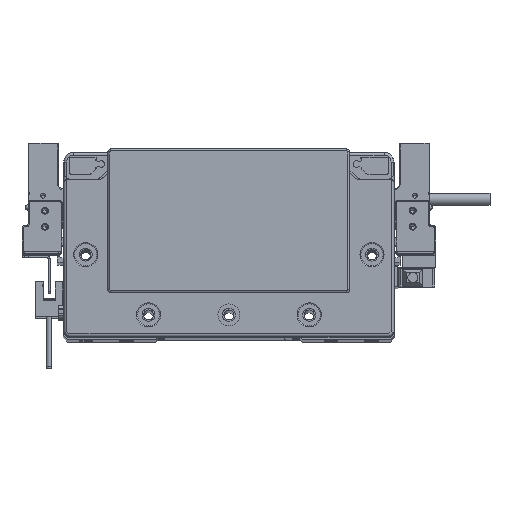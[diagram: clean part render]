
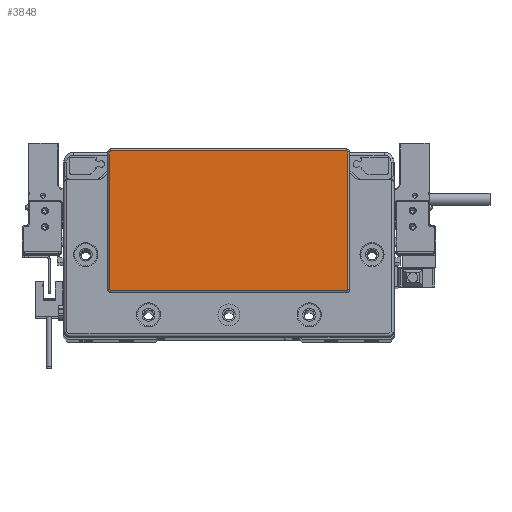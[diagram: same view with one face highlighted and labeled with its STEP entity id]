
A CAD part, top view. The second image highlights one B-rep face of the part: STEP entity #3848.
In plain terms, the highlighted planar face has unit normal (0, 0, 1) as drawn and (0, 0, -1) by its records, which use the part's own axes.
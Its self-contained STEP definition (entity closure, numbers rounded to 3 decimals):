
#1816 = CARTESIAN_POINT ( 'NONE',  ( 58.75, -23.3, -2. ) ) ;
#2236 = EDGE_CURVE ( 'NONE', #39578, #34671, #4663, .T. ) ;
#3848 = ADVANCED_FACE ( 'NONE', ( #59935 ), #86979, .T. ) ;
#4433 = DIRECTION ( 'NONE',  ( -1., 0., 0. ) ) ;
#4663 = LINE ( 'NONE', #85360, #61418 ) ;
#5353 = CARTESIAN_POINT ( 'NONE',  ( -59.25, 45.3, -2. ) ) ;
#6078 = CIRCLE ( 'NONE', #75427, 0.5 ) ;
#7830 = ORIENTED_EDGE ( 'NONE', *, *, #15502, .T. ) ;
#8658 = DIRECTION ( 'NONE',  ( 0., 0., -1. ) ) ;
#9306 = LINE ( 'NONE', #63806, #75719 ) ;
#13086 = ORIENTED_EDGE ( 'NONE', *, *, #13394, .T. ) ;
#13394 = EDGE_CURVE ( 'NONE', #30911, #39578, #27204, .T. ) ;
#14197 = EDGE_LOOP ( 'NONE', ( #40305, #46024, #33750, #58661, #53519, #52095, #7830, #13086 ) ) ;
#15364 = CARTESIAN_POINT ( 'NONE',  ( 59.25, -23.3, -2. ) ) ;
#15502 = EDGE_CURVE ( 'NONE', #50663, #30911, #9306, .T. ) ;
#17789 = CIRCLE ( 'NONE', #60265, 0.5 ) ;
#18837 = DIRECTION ( 'NONE',  ( 0., -1., 0. ) ) ;
#21725 = DIRECTION ( 'NONE',  ( 1., 0., 0. ) ) ;
#21741 = EDGE_CURVE ( 'NONE', #40078, #68135, #77999, .T. ) ;
#21815 = DIRECTION ( 'NONE',  ( 0., 0., -1. ) ) ;
#22076 = AXIS2_PLACEMENT_3D ( 'NONE', #65279, #32026, #26257 ) ;
#23533 = DIRECTION ( 'NONE',  ( 0., 0., -1. ) ) ;
#24829 = CARTESIAN_POINT ( 'NONE',  ( -58.75, -23.8, -2. ) ) ;
#26219 = CARTESIAN_POINT ( 'NONE',  ( -59.25, 45.3, -2. ) ) ;
#26257 = DIRECTION ( 'NONE',  ( -1., 0., 0. ) ) ;
#27204 = CIRCLE ( 'NONE', #78192, 0.5 ) ;
#27826 = CARTESIAN_POINT ( 'NONE',  ( 58.75, 45.8, -2. ) ) ;
#30911 = VERTEX_POINT ( 'NONE', #27826 ) ;
#31523 = DIRECTION ( 'NONE',  ( 0., 1., 0. ) ) ;
#32026 = DIRECTION ( 'NONE',  ( 0., 0., -1. ) ) ;
#33750 = ORIENTED_EDGE ( 'NONE', *, *, #21741, .T. ) ;
#34671 = VERTEX_POINT ( 'NONE', #15364 ) ;
#38114 = DIRECTION ( 'NONE',  ( -1., 0., 0. ) ) ;
#39578 = VERTEX_POINT ( 'NONE', #77918 ) ;
#40078 = VERTEX_POINT ( 'NONE', #65402 ) ;
#40305 = ORIENTED_EDGE ( 'NONE', *, *, #2236, .T. ) ;
#40850 = VERTEX_POINT ( 'NONE', #56777 ) ;
#42283 = AXIS2_PLACEMENT_3D ( 'NONE', #43231, #8658, #79106 ) ;
#42888 = CARTESIAN_POINT ( 'NONE',  ( 58.75, 45.3, -2. ) ) ;
#43231 = CARTESIAN_POINT ( 'NONE',  ( -58.75, 45.3, -2. ) ) ;
#43562 = EDGE_CURVE ( 'NONE', #34671, #40078, #17789, .T. ) ;
#46024 = ORIENTED_EDGE ( 'NONE', *, *, #43562, .T. ) ;
#46495 = EDGE_CURVE ( 'NONE', #83176, #50663, #86206, .T. ) ;
#49967 = DIRECTION ( 'NONE',  ( 0., 0., -1. ) ) ;
#50549 = VECTOR ( 'NONE', #38114, 1000. ) ;
#50659 = CARTESIAN_POINT ( 'NONE',  ( -58.75, 45.8, -2. ) ) ;
#50663 = VERTEX_POINT ( 'NONE', #50659 ) ;
#52095 = ORIENTED_EDGE ( 'NONE', *, *, #46495, .T. ) ;
#53519 = ORIENTED_EDGE ( 'NONE', *, *, #66665, .T. ) ;
#56777 = CARTESIAN_POINT ( 'NONE',  ( -59.25, -23.3, -2. ) ) ;
#58661 = ORIENTED_EDGE ( 'NONE', *, *, #66257, .T. ) ;
#59935 = FACE_OUTER_BOUND ( 'NONE', #14197, .T. ) ;
#60265 = AXIS2_PLACEMENT_3D ( 'NONE', #1816, #23533, #4433 ) ;
#61418 = VECTOR ( 'NONE', #18837, 1000. ) ;
#63039 = CARTESIAN_POINT ( 'NONE',  ( -58.75, -23.8, -2. ) ) ;
#63806 = CARTESIAN_POINT ( 'NONE',  ( 58.75, 45.8, -2. ) ) ;
#65279 = CARTESIAN_POINT ( 'NONE',  ( 0., 0., -2. ) ) ;
#65328 = CARTESIAN_POINT ( 'NONE',  ( -58.75, -23.3, -2. ) ) ;
#65402 = CARTESIAN_POINT ( 'NONE',  ( 58.75, -23.8, -2. ) ) ;
#66257 = EDGE_CURVE ( 'NONE', #68135, #40850, #6078, .T. ) ;
#66665 = EDGE_CURVE ( 'NONE', #40850, #83176, #85617, .T. ) ;
#68135 = VERTEX_POINT ( 'NONE', #63039 ) ;
#69952 = DIRECTION ( 'NONE',  ( -1., 0., 0. ) ) ;
#75427 = AXIS2_PLACEMENT_3D ( 'NONE', #65328, #21815, #80801 ) ;
#75486 = VECTOR ( 'NONE', #31523, 1000. ) ;
#75719 = VECTOR ( 'NONE', #21725, 1000. ) ;
#77918 = CARTESIAN_POINT ( 'NONE',  ( 59.25, 45.3, -2. ) ) ;
#77999 = LINE ( 'NONE', #24829, #50549 ) ;
#78192 = AXIS2_PLACEMENT_3D ( 'NONE', #42888, #49967, #69952 ) ;
#79106 = DIRECTION ( 'NONE',  ( -1., 0., 0. ) ) ;
#80801 = DIRECTION ( 'NONE',  ( -1., 0., 0. ) ) ;
#83176 = VERTEX_POINT ( 'NONE', #26219 ) ;
#85360 = CARTESIAN_POINT ( 'NONE',  ( 59.25, -23.3, -2. ) ) ;
#85617 = LINE ( 'NONE', #5353, #75486 ) ;
#86206 = CIRCLE ( 'NONE', #42283, 0.5 ) ;
#86979 = PLANE ( 'NONE',  #22076 ) ;
